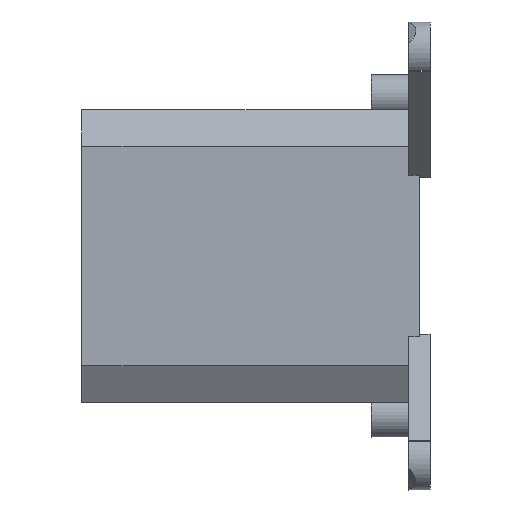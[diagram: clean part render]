
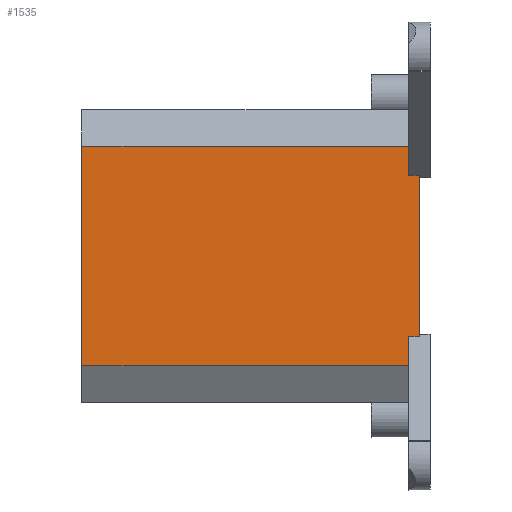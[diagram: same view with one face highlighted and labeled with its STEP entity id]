
A CAD part, left-side view. The second image highlights one B-rep face of the part: STEP entity #1535.
In plain terms, the highlighted planar face has unit normal (-1, 0, 0).
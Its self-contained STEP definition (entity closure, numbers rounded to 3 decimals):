
#55=PLANE('',#1639);
#114=FACE_OUTER_BOUND('',#196,.T.);
#196=EDGE_LOOP('',(#1192,#1193,#1194,#1195,#1196,#1197,#1198,#1199));
#290=LINE('',#2216,#466);
#329=LINE('',#2296,#505);
#351=LINE('',#2354,#527);
#352=LINE('',#2356,#528);
#353=LINE('',#2357,#529);
#354=LINE('',#2359,#530);
#355=LINE('',#2361,#531);
#356=LINE('',#2362,#532);
#466=VECTOR('',#1785,1.);
#505=VECTOR('',#1840,1.);
#527=VECTOR('',#1886,1.);
#528=VECTOR('',#1887,1.);
#529=VECTOR('',#1888,1.);
#530=VECTOR('',#1889,1.);
#531=VECTOR('',#1890,1.);
#532=VECTOR('',#1891,1.);
#689=VERTEX_POINT('',#2213);
#690=VERTEX_POINT('',#2215);
#722=VERTEX_POINT('',#2293);
#746=VERTEX_POINT('',#2352);
#747=VERTEX_POINT('',#2353);
#748=VERTEX_POINT('',#2355);
#749=VERTEX_POINT('',#2358);
#750=VERTEX_POINT('',#2360);
#849=EDGE_CURVE('',#690,#689,#290,.T.);
#889=EDGE_CURVE('',#689,#722,#329,.T.);
#917=EDGE_CURVE('',#746,#747,#351,.T.);
#918=EDGE_CURVE('',#746,#748,#352,.T.);
#919=EDGE_CURVE('',#690,#748,#353,.T.);
#920=EDGE_CURVE('',#749,#722,#354,.T.);
#921=EDGE_CURVE('',#749,#750,#355,.T.);
#922=EDGE_CURVE('',#747,#750,#356,.T.);
#1192=ORIENTED_EDGE('',*,*,#917,.F.);
#1193=ORIENTED_EDGE('',*,*,#918,.T.);
#1194=ORIENTED_EDGE('',*,*,#919,.F.);
#1195=ORIENTED_EDGE('',*,*,#849,.T.);
#1196=ORIENTED_EDGE('',*,*,#889,.T.);
#1197=ORIENTED_EDGE('',*,*,#920,.F.);
#1198=ORIENTED_EDGE('',*,*,#921,.T.);
#1199=ORIENTED_EDGE('',*,*,#922,.F.);
#1535=ADVANCED_FACE('',(#114),#55,.T.);
#1639=AXIS2_PLACEMENT_3D('',#2351,#1884,#1885);
#1785=DIRECTION('',(0.,1.,0.));
#1840=DIRECTION('',(0.,0.,-1.));
#1884=DIRECTION('center_axis',(-1.,0.,0.));
#1885=DIRECTION('ref_axis',(0.,0.,-1.));
#1886=DIRECTION('',(0.,0.,-1.));
#1887=DIRECTION('',(0.,1.,0.));
#1888=DIRECTION('',(0.,0.,-1.));
#1889=DIRECTION('',(0.,1.,0.));
#1890=DIRECTION('',(0.,0.,1.));
#1891=DIRECTION('',(0.,1.,0.));
#2213=CARTESIAN_POINT('',(-16.4,-5.4,468.5));
#2215=CARTESIAN_POINT('',(-16.4,-51.5,468.5));
#2216=CARTESIAN_POINT('',(-16.4,-52.95,468.5));
#2293=CARTESIAN_POINT('',(-16.4,-5.4,437.5));
#2296=CARTESIAN_POINT('',(-16.4,-5.4,468.5));
#2351=CARTESIAN_POINT('Origin',(-16.4,-52.95,468.5));
#2352=CARTESIAN_POINT('',(-16.4,-52.95,464.375));
#2353=CARTESIAN_POINT('',(-16.4,-52.95,441.625));
#2354=CARTESIAN_POINT('',(-16.4,-52.95,468.5));
#2355=CARTESIAN_POINT('',(-16.4,-51.5,464.375));
#2356=CARTESIAN_POINT('',(-16.4,-53.725,464.375));
#2357=CARTESIAN_POINT('',(-16.4,-51.5,471.363));
#2358=CARTESIAN_POINT('',(-16.4,-51.5,437.5));
#2359=CARTESIAN_POINT('',(-16.4,-52.95,437.5));
#2360=CARTESIAN_POINT('',(-16.4,-51.5,441.625));
#2361=CARTESIAN_POINT('',(-16.4,-51.5,450.137));
#2362=CARTESIAN_POINT('',(-16.4,-53.725,441.625));
